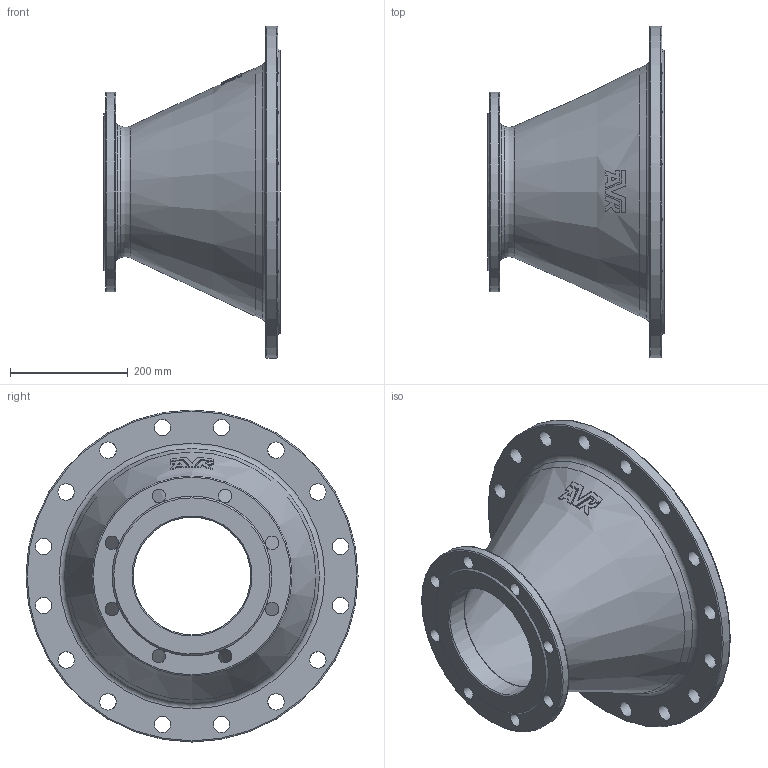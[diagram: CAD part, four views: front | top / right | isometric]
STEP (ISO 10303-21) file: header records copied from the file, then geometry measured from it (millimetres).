
FILE_DESCRIPTION (( 'STEP AP203' ), '1' );
FILE_NAME ('O_712_2210_DN400_DN200_0X_REV01.step', '2024-08-08T06:54:52', ( '' ), ( '' ), 'SwSTEP 2.0', 'SolidWorks 2022', '' );
FILE_SCHEMA (( 'CONFIG_CONTROL_DESIGN' ));
Length unit declared in the file: millimetre
Products named in the file (1): O_712_2210_DN400_DN200_0X_REV01
Bounding box: 300 x 565 x 565 mm (x, y, z)
Volume: 6229038 mm3; surface area: 982597.2 mm2
Topology: 1 solids, 1 shells, 93 faces, 302 edges, 195 vertices
Faces by surface type: plane 41, cylinder 30, cone 12, torus 10
Full cylindrical faces by diameter (mm): 23 x8, 28 x16, 200 x1, 340 x1, 400 x1, 565 x1
Entity records: 3268 total; most frequent: CARTESIAN_POINT 849, DIRECTION 485, ORIENTED_EDGE 450, EDGE_CURVE 225, AXIS2_PLACEMENT_3D 224, EDGE_LOOP 173, VERTEX_POINT 164, FACE_OUTER_BOUND 131
